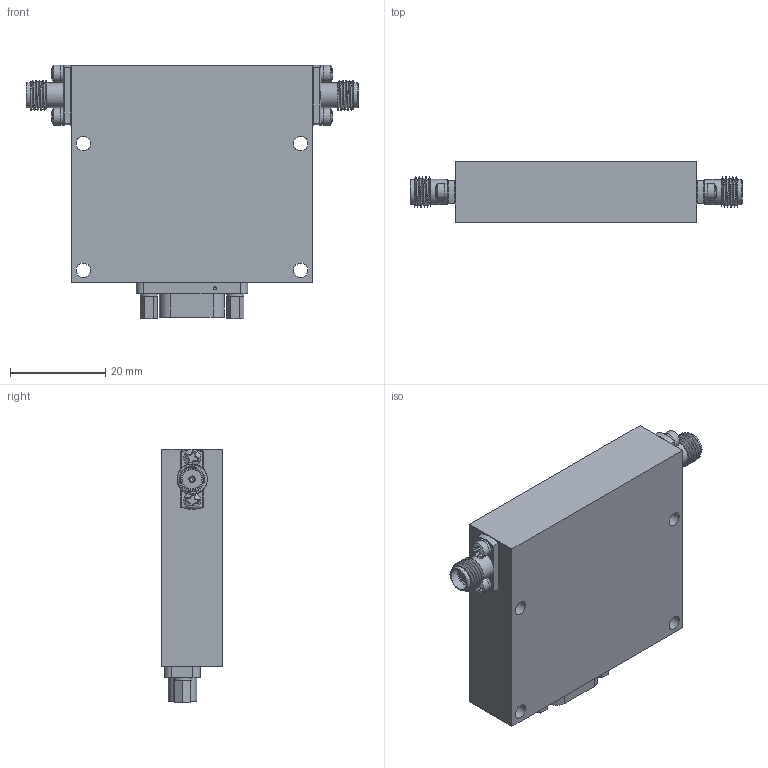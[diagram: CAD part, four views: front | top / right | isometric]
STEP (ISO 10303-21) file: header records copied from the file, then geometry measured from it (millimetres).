
FILE_DESCRIPTION (( 'STEP AP214' ), '1' );
FILE_NAME ('DTA-18G40G-30-CD-1.STEP', '2026-08-26T12:57:38', ( '' ), ( '' ), 'SwSTEP 2.0', 'SolidWorks 2025', '' );
FILE_SCHEMA (( 'AUTOMOTIVE_DESIGN' ));
Length unit declared in the file: inch
Products named in the file (1): DTA-18G40G-30-CD-1
Bounding box: 69.85 x 12.75 x 53.39 mm (x, y, z)
Volume: 30785.5 mm3; surface area: 14632.1 mm2
Topology: 21 solids, 21 shells, 750 faces, 2439 edges, 1946 vertices
Faces by surface type: plane 440, cylinder 222, torus 46, cone 34, bspline 4, sphere 4
Full cylindrical faces by diameter (mm): 0.381 x2, 0.787 x15, 1.016 x4, 1.27 x4, 1.778 x2, 2.184 x6, 2.489 x6, 2.591 x4, 3.048 x4, 3.302 x2, 3.556 x4, 4.191 x4, 4.597 x2, 5.283 x4
Entity records: 43164 total; most frequent: CARTESIAN_POINT 12379, ORIENTED_EDGE 4628, DIRECTION 4060, EDGE_CURVE 2314, VERTEX_POINT 1932, AXIS2_PLACEMENT_3D 1402, VECTOR 1256, LINE 1256
